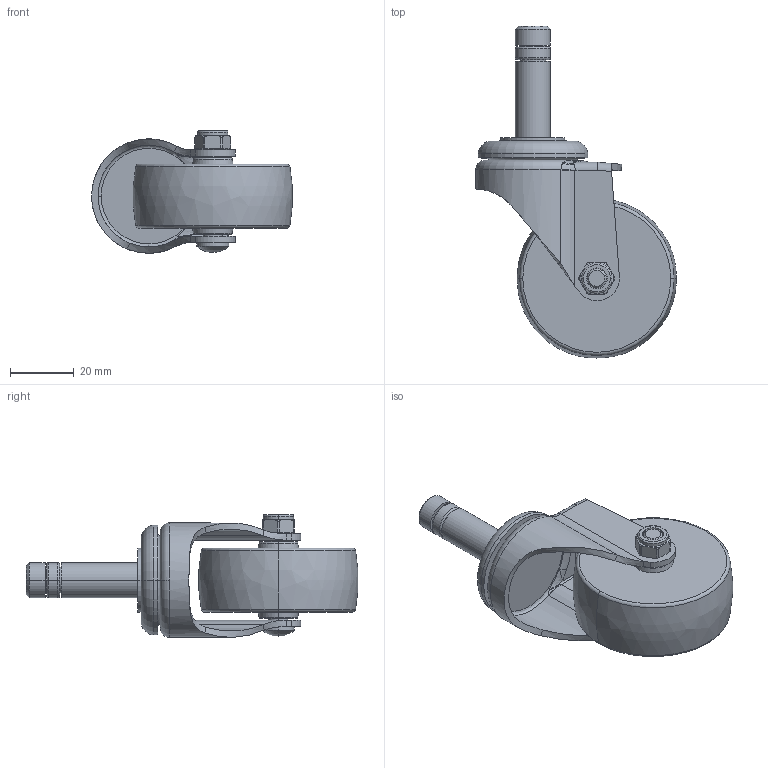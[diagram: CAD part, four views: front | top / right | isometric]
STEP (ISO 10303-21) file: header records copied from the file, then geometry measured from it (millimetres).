
FILE_DESCRIPTION((''),'2;1');
FILE_NAME('26112-262-83_ASM','2019-12-13T',('L'),(''),'PRO/ENGINEER BY PARAMETRIC TECHNOLOGY CORPORATION, 2010280','PRO/ENGINEER BY PARAMETRIC TECHNOLOGY CORPORATION, 2010280','');
FILE_SCHEMA(('CONFIG_CONTROL_DESIGN'));
Length unit declared in the file: millimetre
Products named in the file (5): 26152; 262-83; 2610-020; 2610-031; 26112-262-83_ASM
Assembly tree (4 placements, depth 2):
  26112-262-83_ASM
    26152
    262-83
    2610-020
    2610-031
Bounding box: 62.84 x 103.9 x 38.43 mm (x, y, z)
Volume: 54752.6 mm3; surface area: 19274.5 mm2
Topology: 4 solids, 4 shells, 178 faces, 406 edges, 243 vertices
Faces by surface type: cylinder 55, plane 40, torus 32, bspline 27, cone 22, sphere 2
Entity records: 6667 total; most frequent: CARTESIAN_POINT 2653, DIRECTION 846, ORIENTED_EDGE 800, EDGE_CURVE 400, AXIS2_PLACEMENT_3D 366, VERTEX_POINT 243, CIRCLE 206, EDGE_LOOP 199
